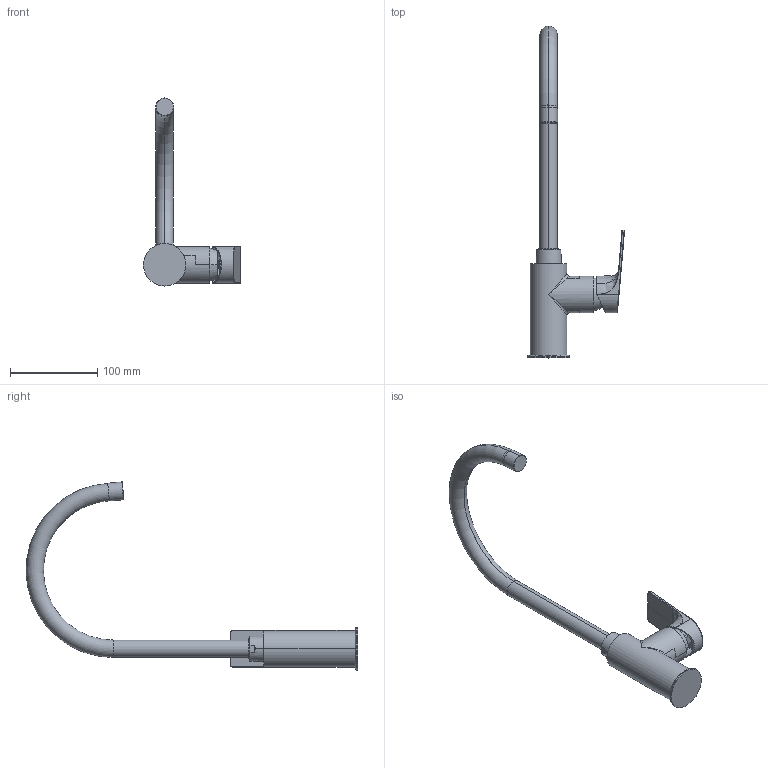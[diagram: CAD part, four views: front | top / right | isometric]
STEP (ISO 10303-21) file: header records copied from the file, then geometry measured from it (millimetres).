
FILE_DESCRIPTION((''),'2;1');
FILE_NAME('78165_SW0001','2020-05-27T11:23:46',('volponeff'),(''),'CREO PARAMETRIC BY PTC INC, 2018100','CREO PARAMETRIC BY PTC INC, 2018100','');
FILE_SCHEMA(('CONFIG_CONTROL_DESIGN'));
Length unit declared in the file: millimetre
Products named in the file (1): 78165_SW0001
Bounding box: 111.57 x 380.85 x 215.87 mm (x, y, z)
Volume: 226166.4 mm3; surface area: 118557.9 mm2
Topology: 3 solids, 5 shells, 579 faces, 1369 edges, 817 vertices
Faces by surface type: cylinder 230, plane 133, torus 81, bspline 63, cone 58, sphere 12, extrusion 2
Entity records: 22795 total; most frequent: CARTESIAN_POINT 9620, DIRECTION 2829, ORIENTED_EDGE 2726, EDGE_CURVE 1363, AXIS2_PLACEMENT_3D 1161, VERTEX_POINT 817, CIRCLE 647, EDGE_LOOP 622
